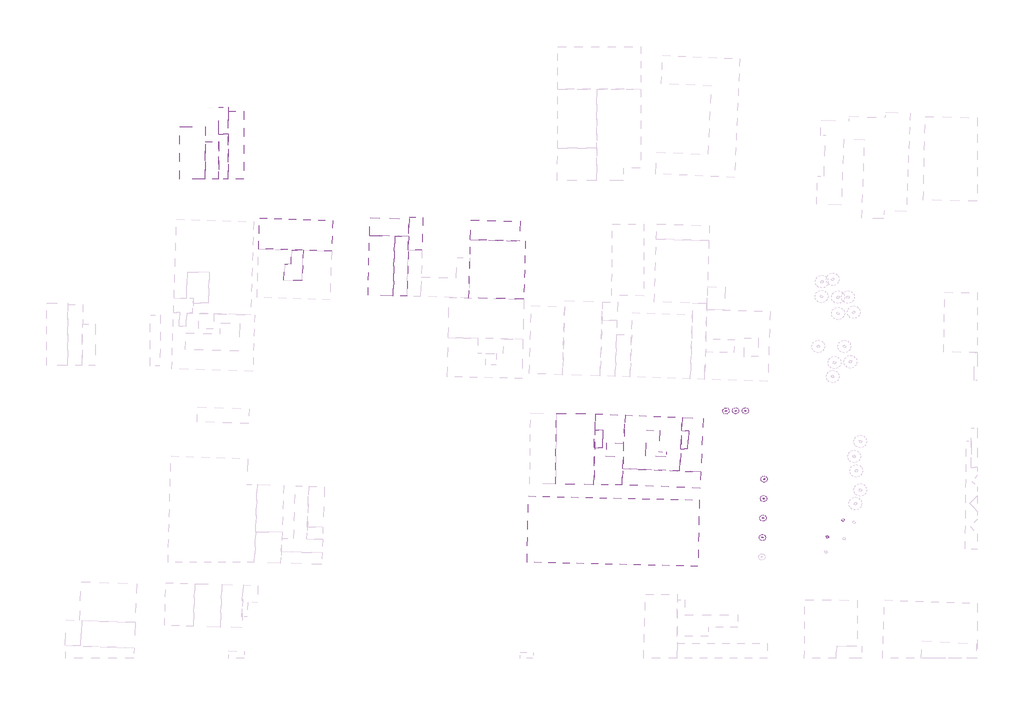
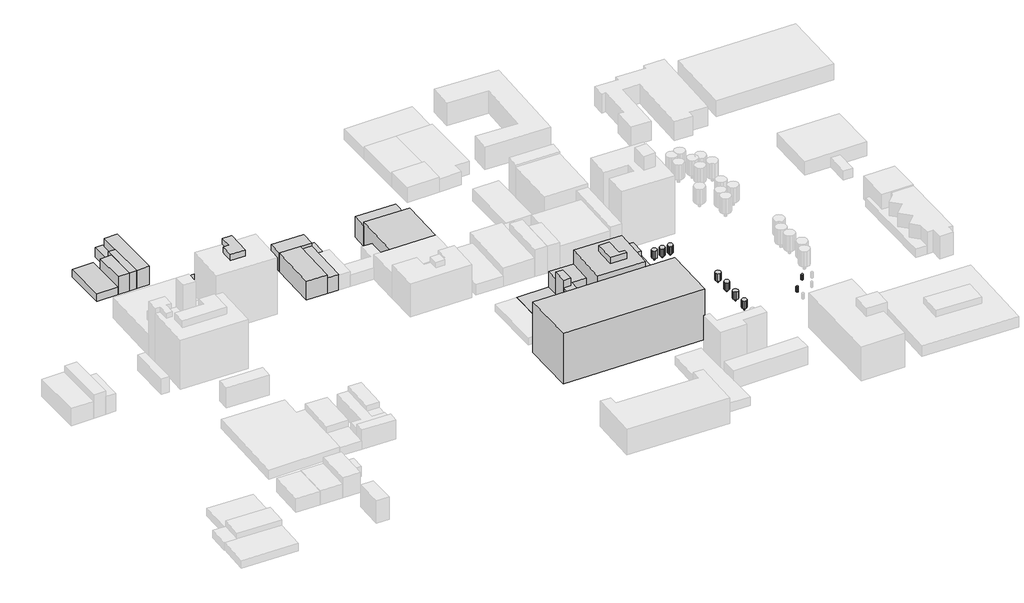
# One storey, part 2 of 4: 38 proxies.
"""IFC4 building model written with IfcOpenShell, lengths in millimetres."""

from ifc_helpers import new_model, si_unit, frame, origin, place, context, project, spatial, polyline, outline, extrude, triangles, element, save

model = new_model("IFC4")

# Units and contexts
model_context = context("Model", 3, world=origin())
ifc_project = project(units=[si_unit("LENGTHUNIT", "METRE", prefix="MILLI")], contexts=[model_context])

# Site, building, storey
site = spatial("IfcSite", under=ifc_project)
building = spatial("IfcBuilding", under=site)
storey = spatial("IfcBuildingStorey", under=building, Name="Terrain Minimum Level", Elevation=-10557.5420791)

# Proxies
placement = place(None, origin())
element("IfcBuildingElementProxy", 1, Name="Generic Models", at=placement, inside=storey, context=model_context, shape_type="SweptSolid", body=[
    extrude(outline(polyline([(-19836.2611246, 22221.5650994), (60413.6181407, 20376.529301), (59696.7581908, -10803.3125622), (-20553.1210745, -8958.2767638), (-19836.2611246, 22221.5650994)])), frame((0.0, 0.0, -2389.8631352), z_axis=(0.0, 0.0, 1.0), x_axis=(1.0, 0.0, 0.0)), (0.0, 0.0, 1.0), 30480.0),
])
element("IfcBuildingElementProxy", 2, Name="Generic Models", at=placement, inside=storey, context=model_context, shape_type="Tessellation", body=[
    triangles([(73163.8271851, 62067.0301025, -1461.6953728), (73163.8271851, 62371.8301025, -1461.6953728), (73052.2619019, 62483.3953857, -1461.6953728), (72899.8619019, 62524.2301025, -1461.6953728), (72747.4619019, 62483.3953857, -1461.6953728), (72747.4619019, 61955.4648193, -1461.6953728), (73052.2619019, 61955.4648193, -1461.6953728), (72899.8619019, 61914.6301025, -1461.6953728), (73052.2619019, 61955.4648193, -2985.6953728), (72899.8619019, 61914.6301025, -2985.6953728), (72635.8966187, 62067.0301025, -2985.6953728), (72899.8619019, 62524.2301025, -2985.6953728), (73052.2619019, 62483.3953857, -2985.6953728), (73163.8271851, 62371.8301025, -2985.6953728), (73204.6619019, 62219.4301025, -2985.6953728), (73163.8271851, 62067.0301025, -2985.6953728), (73204.6619019, 62219.4301025, -1461.6953728), (72747.4619019, 62483.3953857, -2985.6953728), (72635.8966187, 62371.8301025, -2985.6953728), (72635.8966187, 62371.8301025, -1461.6953728), (72595.0619019, 62219.4301025, -2985.6953728), (72635.8966187, 62067.0301025, -1461.6953728), (72595.0619019, 62219.4301025, -1461.6953728), (72747.4619019, 61955.4648193, -2985.6953728)], [[16, 17, 1], [16, 15, 17], [9, 1, 7], [9, 16, 1], [10, 7, 8], [10, 9, 7], [24, 8, 6], [24, 10, 8], [11, 6, 22], [11, 24, 6], [21, 22, 23], [21, 11, 22], [19, 23, 20], [19, 21, 23], [18, 20, 5], [18, 19, 20], [12, 5, 4], [12, 18, 5], [13, 4, 3], [13, 12, 4], [14, 3, 2], [14, 13, 3], [15, 2, 17], [15, 14, 2], [14, 15, 16], [12, 13, 14], [19, 18, 12], [11, 21, 19], [10, 24, 11], [16, 9, 10], [12, 14, 16], [11, 19, 12], [16, 10, 11], [11, 12, 16], [1, 4, 22], [22, 8, 1], [4, 20, 22], [1, 2, 4], [8, 7, 1], [22, 6, 8], [20, 23, 22], [4, 5, 20], [2, 3, 4], [1, 17, 2]]),
])
element("IfcBuildingElementProxy", 3, Name="Generic Models", at=placement, inside=storey, context=model_context, shape_type="Tessellation", body=[
    triangles([(74219.683667, 61457.4301025, 3110.3049179), (74219.683667, 62981.4301025, 3110.3049179), (73661.8619019, 63539.2518677, 3110.3049179), (72899.8619019, 63743.4301025, 3110.3049179), (72137.8619019, 63539.2518677, 3110.3049179), (72137.8619019, 60899.6083374, 3110.3049179), (73661.8619019, 60899.6083374, 3110.3049179), (72899.8619019, 60695.4301025, 3110.3049179), (73661.8619019, 60899.6083374, -1461.6953728), (72899.8619019, 60695.4301025, -1461.6953728), (71580.0401367, 61457.4301025, -1461.6953728), (72899.8619019, 63743.4301025, -1461.6953728), (73661.8619019, 63539.2518677, -1461.6953728), (74219.683667, 62981.4301025, -1461.6953728), (74423.8619019, 62219.4301025, -1461.6953728), (74219.683667, 61457.4301025, -1461.6953728), (74423.8619019, 62219.4301025, 3110.3049179), (72137.8619019, 63539.2518677, -1461.6953728), (71580.0401367, 62981.4301025, -1461.6953728), (71580.0401367, 62981.4301025, 3110.3049179), (71375.8619019, 62219.4301025, -1461.6953728), (71580.0401367, 61457.4301025, 3110.3049179), (71375.8619019, 62219.4301025, 3110.3049179), (72137.8619019, 60899.6083374, -1461.6953728)], [[16, 17, 1], [16, 15, 17], [9, 1, 7], [9, 16, 1], [10, 7, 8], [10, 9, 7], [24, 8, 6], [24, 10, 8], [11, 6, 22], [11, 24, 6], [21, 22, 23], [21, 11, 22], [19, 23, 20], [19, 21, 23], [18, 20, 5], [18, 19, 20], [12, 5, 4], [12, 18, 5], [13, 4, 3], [13, 12, 4], [14, 3, 2], [14, 13, 3], [15, 2, 17], [15, 14, 2], [14, 15, 16], [12, 13, 14], [19, 18, 12], [11, 21, 19], [10, 24, 11], [16, 9, 10], [12, 14, 16], [11, 19, 12], [16, 10, 11], [11, 12, 16], [1, 4, 22], [22, 8, 1], [4, 20, 22], [1, 2, 4], [8, 7, 1], [22, 6, 8], [20, 23, 22], [4, 5, 20], [2, 3, 4], [1, 17, 2]]),
])
element("IfcBuildingElementProxy", 4, Name="Generic Models", at=placement, inside=storey, context=model_context, shape_type="Tessellation", body=[
    triangles([(77735.7341675, 62095.7120728, -1616.7135269), (77735.7341675, 62400.5120728, -1616.7135269), (77624.1735352, 62512.077356, -1616.7135269), (77471.7735352, 62552.9120728, -1616.7135269), (77319.3735352, 62512.077356, -1616.7135269), (77319.3735352, 61984.1467896, -1616.7135269), (77624.1735352, 61984.1467896, -1616.7135269), (77471.7735352, 61943.3120728, -1616.7135269), (77624.1735352, 61984.1467896, -3140.7135269), (77471.7735352, 61943.3120728, -3140.7135269), (77207.808252, 62095.7120728, -3140.7135269), (77471.7735352, 62552.9120728, -3140.7135269), (77624.1735352, 62512.077356, -3140.7135269), (77735.7341675, 62400.5120728, -3140.7135269), (77776.5735352, 62248.1120728, -3140.7135269), (77735.7341675, 62095.7120728, -3140.7135269), (77776.5735352, 62248.1120728, -1616.7135269), (77319.3735352, 62512.077356, -3140.7135269), (77207.808252, 62400.5120728, -3140.7135269), (77207.808252, 62400.5120728, -1616.7135269), (77166.9735352, 62248.1120728, -3140.7135269), (77207.808252, 62095.7120728, -1616.7135269), (77166.9735352, 62248.1120728, -1616.7135269), (77319.3735352, 61984.1467896, -3140.7135269)], [[16, 17, 1], [16, 15, 17], [9, 1, 7], [9, 16, 1], [10, 7, 8], [10, 9, 7], [24, 8, 6], [24, 10, 8], [11, 6, 22], [11, 24, 6], [21, 22, 23], [21, 11, 22], [19, 23, 20], [19, 21, 23], [18, 20, 5], [18, 19, 20], [12, 5, 4], [12, 18, 5], [13, 4, 3], [13, 12, 4], [14, 3, 2], [14, 13, 3], [15, 2, 17], [15, 14, 2], [14, 15, 16], [12, 13, 14], [19, 18, 12], [11, 21, 19], [10, 24, 11], [16, 9, 10], [12, 14, 16], [11, 19, 12], [16, 10, 11], [11, 12, 16], [1, 4, 22], [22, 8, 1], [4, 20, 22], [1, 2, 4], [8, 7, 1], [22, 6, 8], [20, 23, 22], [4, 5, 20], [2, 3, 4], [1, 17, 2]]),
])
element("IfcBuildingElementProxy", 5, Name="Generic Models", at=placement, inside=storey, context=model_context, shape_type="Tessellation", body=[
    triangles([(78791.5906494, 61486.1120728, 2955.2867638), (78791.5906494, 63010.1120728, 2955.2867638), (78233.7735352, 63567.9338379, 2955.2867638), (77471.7735352, 63772.1120728, 2955.2867638), (76709.7735352, 63567.9338379, 2955.2867638), (76709.7735352, 60928.2903076, 2955.2867638), (78233.7735352, 60928.2903076, 2955.2867638), (77471.7735352, 60724.1120728, 2955.2867638), (78233.7735352, 60928.2903076, -1616.7135269), (77471.7735352, 60724.1120728, -1616.7135269), (76151.9471191, 61486.1120728, -1616.7135269), (77471.7735352, 63772.1120728, -1616.7135269), (78233.7735352, 63567.9338379, -1616.7135269), (78791.5906494, 63010.1120728, -1616.7135269), (78995.7735352, 62248.1120728, -1616.7135269), (78791.5906494, 61486.1120728, -1616.7135269), (78995.7735352, 62248.1120728, 2955.2867638), (76709.7735352, 63567.9338379, -1616.7135269), (76151.9471191, 63010.1120728, -1616.7135269), (76151.9471191, 63010.1120728, 2955.2867638), (75947.7735352, 62248.1120728, -1616.7135269), (76151.9471191, 61486.1120728, 2955.2867638), (75947.7735352, 62248.1120728, 2955.2867638), (76709.7735352, 60928.2903076, -1616.7135269)], [[16, 17, 1], [16, 15, 17], [9, 1, 7], [9, 16, 1], [10, 7, 8], [10, 9, 7], [24, 8, 6], [24, 10, 8], [11, 6, 22], [11, 24, 6], [21, 22, 23], [21, 11, 22], [19, 23, 20], [19, 21, 23], [18, 20, 5], [18, 19, 20], [12, 5, 4], [12, 18, 5], [13, 4, 3], [13, 12, 4], [14, 3, 2], [14, 13, 3], [15, 2, 17], [15, 14, 2], [14, 15, 16], [12, 13, 14], [19, 18, 12], [11, 21, 19], [10, 24, 11], [16, 9, 10], [12, 14, 16], [11, 19, 12], [16, 10, 11], [11, 12, 16], [1, 4, 22], [22, 8, 1], [4, 20, 22], [1, 2, 4], [8, 7, 1], [22, 6, 8], [20, 23, 22], [4, 5, 20], [2, 3, 4], [1, 17, 2]]),
])
element("IfcBuildingElementProxy", 6, Name="Generic Models", at=placement, inside=storey, context=model_context, shape_type="Tessellation", body=[
    triangles([(82307.6458008, 62124.394043, -1737.6804165), (82307.6458008, 62429.194043, -1737.6804165), (82196.0805176, 62540.7593262, -1737.6804165), (82043.6805176, 62581.594043, -1737.6804165), (81891.2805176, 62540.7593262, -1737.6804165), (81891.2805176, 62012.8287598, -1737.6804165), (82196.0805176, 62012.8287598, -1737.6804165), (82043.6805176, 61971.994043, -1737.6804165), (82196.0805176, 62012.8287598, -3261.6805618), (82043.6805176, 61971.994043, -3261.6805618), (81779.7152344, 62124.394043, -3261.6805618), (82043.6805176, 62581.594043, -3261.6805618), (82196.0805176, 62540.7593262, -3261.6805618), (82307.6458008, 62429.194043, -3261.6805618), (82348.4805176, 62276.794043, -3261.6805618), (82307.6458008, 62124.394043, -3261.6805618), (82348.4805176, 62276.794043, -1737.6804165), (81891.2805176, 62540.7593262, -3261.6805618), (81779.7152344, 62429.194043, -3261.6805618), (81779.7152344, 62429.194043, -1737.6804165), (81738.8805176, 62276.794043, -3261.6805618), (81779.7152344, 62124.394043, -1737.6804165), (81738.8805176, 62276.794043, -1737.6804165), (81891.2805176, 62012.8287598, -3261.6805618)], [[16, 17, 1], [16, 15, 17], [9, 1, 7], [9, 16, 1], [10, 7, 8], [10, 9, 7], [24, 8, 6], [24, 10, 8], [11, 6, 22], [11, 24, 6], [21, 22, 23], [21, 11, 22], [19, 23, 20], [19, 21, 23], [18, 20, 5], [18, 19, 20], [12, 5, 4], [12, 18, 5], [13, 4, 3], [13, 12, 4], [14, 3, 2], [14, 13, 3], [15, 2, 17], [15, 14, 2], [14, 15, 16], [12, 13, 14], [19, 18, 12], [11, 21, 19], [10, 24, 11], [16, 9, 10], [12, 14, 16], [11, 19, 12], [16, 10, 11], [11, 12, 16], [1, 4, 22], [22, 8, 1], [4, 20, 22], [1, 2, 4], [8, 7, 1], [22, 6, 8], [20, 23, 22], [4, 5, 20], [2, 3, 4], [1, 17, 2]]),
])
element("IfcBuildingElementProxy", 7, Name="Generic Models", at=placement, inside=storey, context=model_context, shape_type="Tessellation", body=[
    triangles([(83363.5069336, 61514.794043, 2834.3197289), (83363.5069336, 63038.794043, 2834.3197289), (82805.6805176, 63596.6158081, 2834.3197289), (82043.6805176, 63800.794043, 2834.3197289), (81281.6805176, 63596.6158081, 2834.3197289), (81281.6805176, 60956.9722778, 2834.3197289), (82805.6805176, 60956.9722778, 2834.3197289), (82043.6805176, 60752.794043, 2834.3197289), (82805.6805176, 60956.9722778, -1737.6804165), (82043.6805176, 60752.794043, -1737.6804165), (80723.8634033, 61514.794043, -1737.6804165), (82043.6805176, 63800.794043, -1737.6804165), (82805.6805176, 63596.6158081, -1737.6804165), (83363.5069336, 63038.794043, -1737.6804165), (83567.6805176, 62276.794043, -1737.6804165), (83363.5069336, 61514.794043, -1737.6804165), (83567.6805176, 62276.794043, 2834.3197289), (81281.6805176, 63596.6158081, -1737.6804165), (80723.8634033, 63038.794043, -1737.6804165), (80723.8634033, 63038.794043, 2834.3197289), (80519.6805176, 62276.794043, -1737.6804165), (80723.8634033, 61514.794043, 2834.3197289), (80519.6805176, 62276.794043, 2834.3197289), (81281.6805176, 60956.9722778, -1737.6804165)], [[16, 17, 1], [16, 15, 17], [9, 1, 7], [9, 16, 1], [10, 7, 8], [10, 9, 7], [24, 8, 6], [24, 10, 8], [11, 6, 22], [11, 24, 6], [21, 22, 23], [21, 11, 22], [19, 23, 20], [19, 21, 23], [18, 20, 5], [18, 19, 20], [12, 5, 4], [12, 18, 5], [13, 4, 3], [13, 12, 4], [14, 3, 2], [14, 13, 3], [15, 2, 17], [15, 14, 2], [14, 15, 16], [12, 13, 14], [19, 18, 12], [11, 21, 19], [10, 24, 11], [16, 9, 10], [12, 14, 16], [11, 19, 12], [16, 10, 11], [11, 12, 16], [1, 4, 22], [22, 8, 1], [4, 20, 22], [1, 2, 4], [8, 7, 1], [22, 6, 8], [20, 23, 22], [4, 5, 20], [2, 3, 4], [1, 17, 2]]),
])
element("IfcBuildingElementProxy", 8, Name="Generic Models", at=placement, inside=storey, context=model_context, shape_type="Tessellation", body=[
    triangles([(90299.8742432, 2590.8520317, -1696.3297428), (90299.8742432, 2895.6520317, -1696.3297428), (90188.30896, 3007.2164429, -1696.3297428), (90035.90896, 3048.0520317, -1696.3297428), (89883.50896, 3007.2164429, -1696.3297428), (89883.50896, 2479.2876205, -1696.3297428), (90188.30896, 2479.2876205, -1696.3297428), (90035.90896, 2438.4520317, -1696.3297428), (90188.30896, 2479.2876205, -3220.3298882), (90035.90896, 2438.4520317, -3220.3298882), (89771.9436768, 2590.8520317, -3220.3298882), (90035.90896, 3048.0520317, -3220.3298882), (90188.30896, 3007.2164429, -3220.3298882), (90299.8742432, 2895.6520317, -3220.3298882), (90340.70896, 2743.2520317, -3220.3298882), (90299.8742432, 2590.8520317, -3220.3298882), (90340.70896, 2743.2520317, -1696.3297428), (89883.50896, 3007.2164429, -3220.3298882), (89771.9436768, 2895.6520317, -3220.3298882), (89771.9436768, 2895.6520317, -1696.3297428), (89731.10896, 2743.2520317, -3220.3298882), (89771.9436768, 2590.8520317, -1696.3297428), (89731.10896, 2743.2520317, -1696.3297428), (89883.50896, 2479.2876205, -3220.3298882)], [[16, 17, 1], [16, 15, 17], [9, 1, 7], [9, 16, 1], [10, 7, 8], [10, 9, 7], [24, 8, 6], [24, 10, 8], [11, 6, 22], [11, 24, 6], [21, 22, 23], [21, 11, 22], [19, 23, 20], [19, 21, 23], [18, 20, 5], [18, 19, 20], [12, 5, 4], [12, 18, 5], [13, 4, 3], [13, 12, 4], [14, 3, 2], [14, 13, 3], [15, 2, 17], [15, 14, 2], [14, 15, 16], [12, 13, 14], [19, 18, 12], [11, 21, 19], [10, 24, 11], [16, 9, 10], [12, 14, 16], [11, 19, 12], [16, 10, 11], [11, 12, 16], [1, 4, 22], [22, 8, 1], [4, 20, 22], [1, 2, 4], [8, 7, 1], [22, 6, 8], [20, 23, 22], [4, 5, 20], [2, 3, 4], [1, 17, 2]]),
])
element("IfcBuildingElementProxy", 9, Name="Generic Models", at=placement, inside=storey, context=model_context, shape_type="Tessellation", body=[
    triangles([(91355.7260742, 1981.2520317, 2875.6704025), (91355.7260742, 3505.2520317, 2875.6704025), (90797.90896, 4063.0746689, 2875.6704025), (90035.90896, 4267.2520317, 2875.6704025), (89273.90896, 4063.0746689, 2875.6704025), (89273.90896, 1423.4293945, 2875.6704025), (90797.90896, 1423.4293945, 2875.6704025), (90035.90896, 1219.2520317, 2875.6704025), (90797.90896, 1423.4293945, -1696.3297428), (90035.90896, 1219.2520317, -1696.3297428), (88716.0825439, 1981.2520317, -1696.3297428), (90035.90896, 4267.2520317, -1696.3297428), (90797.90896, 4063.0746689, -1696.3297428), (91355.7260742, 3505.2520317, -1696.3297428), (91559.90896, 2743.2520317, -1696.3297428), (91355.7260742, 1981.2520317, -1696.3297428), (91559.90896, 2743.2520317, 2875.6704025), (89273.90896, 4063.0746689, -1696.3297428), (88716.0825439, 3505.2520317, -1696.3297428), (88716.0825439, 3505.2520317, 2875.6704025), (88511.90896, 2743.2520317, -1696.3297428), (88716.0825439, 1981.2520317, 2875.6704025), (88511.90896, 2743.2520317, 2875.6704025), (89273.90896, 1423.4293945, -1696.3297428)], [[16, 17, 1], [16, 15, 17], [9, 1, 7], [9, 16, 1], [10, 7, 8], [10, 9, 7], [24, 8, 6], [24, 10, 8], [11, 6, 22], [11, 24, 6], [21, 22, 23], [21, 11, 22], [19, 23, 20], [19, 21, 23], [18, 20, 5], [18, 19, 20], [12, 5, 4], [12, 18, 5], [13, 4, 3], [13, 12, 4], [14, 3, 2], [14, 13, 3], [15, 2, 17], [15, 14, 2], [14, 15, 16], [12, 13, 14], [19, 18, 12], [11, 21, 19], [10, 24, 11], [16, 9, 10], [12, 14, 16], [11, 19, 12], [16, 10, 11], [11, 12, 16], [1, 4, 22], [22, 8, 1], [4, 20, 22], [1, 2, 4], [8, 7, 1], [22, 6, 8], [20, 23, 22], [4, 5, 20], [2, 3, 4], [1, 17, 2]]),
])
element("IfcBuildingElementProxy", 10, Name="Generic Models", at=placement, inside=storey, context=model_context, shape_type="Tessellation", body=[
    triangles([(90573.7179932, 11730.7502472, -1765.7342274), (90573.7179932, 12035.5502472, -1765.7342274), (90462.15271, 12147.1155304, -1765.7342274), (90309.75271, 12187.9502472, -1765.7342274), (90157.35271, 12147.1155304, -1765.7342274), (90157.35271, 11619.1861267, -1765.7342274), (90462.15271, 11619.1861267, -1765.7342274), (90309.75271, 11578.3502472, -1765.7342274), (90462.15271, 11619.1861267, -3289.7343727), (90309.75271, 11578.3502472, -3289.7343727), (90045.7874268, 11730.7502472, -3289.7343727), (90309.75271, 12187.9502472, -3289.7343727), (90462.15271, 12147.1155304, -3289.7343727), (90573.7179932, 12035.5502472, -3289.7343727), (90614.55271, 11883.1502472, -3289.7343727), (90573.7179932, 11730.7502472, -3289.7343727), (90614.55271, 11883.1502472, -1765.7342274), (90157.35271, 12147.1155304, -3289.7343727), (90045.7874268, 12035.5502472, -3289.7343727), (90045.7874268, 12035.5502472, -1765.7342274), (90004.95271, 11883.1502472, -3289.7343727), (90045.7874268, 11730.7502472, -1765.7342274), (90004.95271, 11883.1502472, -1765.7342274), (90157.35271, 11619.1861267, -3289.7343727)], [[16, 17, 1], [16, 15, 17], [9, 1, 7], [9, 16, 1], [10, 7, 8], [10, 9, 7], [24, 8, 6], [24, 10, 8], [11, 6, 22], [11, 24, 6], [21, 22, 23], [21, 11, 22], [19, 23, 20], [19, 21, 23], [18, 20, 5], [18, 19, 20], [12, 5, 4], [12, 18, 5], [13, 4, 3], [13, 12, 4], [14, 3, 2], [14, 13, 3], [15, 2, 17], [15, 14, 2], [14, 15, 16], [12, 13, 14], [19, 18, 12], [11, 21, 19], [10, 24, 11], [16, 9, 10], [12, 14, 16], [11, 19, 12], [16, 10, 11], [11, 12, 16], [1, 4, 22], [22, 8, 1], [4, 20, 22], [1, 2, 4], [8, 7, 1], [22, 6, 8], [20, 23, 22], [4, 5, 20], [2, 3, 4], [1, 17, 2]]),
])
element("IfcBuildingElementProxy", 11, Name="Generic Models", at=placement, inside=storey, context=model_context, shape_type="Tessellation", body=[
    triangles([(91629.5698242, 11121.1502472, 2806.265918), (91629.5698242, 12645.1502472, 2806.265918), (91071.75271, 13202.973175, 2806.265918), (90309.75271, 13407.1502472, 2806.265918), (89547.75271, 13202.973175, 2806.265918), (89547.75271, 10563.3273193, 2806.265918), (91071.75271, 10563.3273193, 2806.265918), (90309.75271, 10359.1502472, 2806.265918), (91071.75271, 10563.3273193, -1765.7342274), (90309.75271, 10359.1502472, -1765.7342274), (88989.9262939, 11121.1502472, -1765.7342274), (90309.75271, 13407.1502472, -1765.7342274), (91071.75271, 13202.973175, -1765.7342274), (91629.5698242, 12645.1502472, -1765.7342274), (91833.75271, 11883.1502472, -1765.7342274), (91629.5698242, 11121.1502472, -1765.7342274), (91833.75271, 11883.1502472, 2806.265918), (89547.75271, 13202.973175, -1765.7342274), (88989.9262939, 12645.1502472, -1765.7342274), (88989.9262939, 12645.1502472, 2806.265918), (88785.75271, 11883.1502472, -1765.7342274), (88989.9262939, 11121.1502472, 2806.265918), (88785.75271, 11883.1502472, 2806.265918), (89547.75271, 10563.3273193, -1765.7342274)], [[16, 17, 1], [16, 15, 17], [9, 1, 7], [9, 16, 1], [10, 7, 8], [10, 9, 7], [24, 8, 6], [24, 10, 8], [11, 6, 22], [11, 24, 6], [21, 22, 23], [21, 11, 22], [19, 23, 20], [19, 21, 23], [18, 20, 5], [18, 19, 20], [12, 5, 4], [12, 18, 5], [13, 4, 3], [13, 12, 4], [14, 3, 2], [14, 13, 3], [15, 2, 17], [15, 14, 2], [14, 15, 16], [12, 13, 14], [19, 18, 12], [11, 21, 19], [10, 24, 11], [16, 9, 10], [12, 14, 16], [11, 19, 12], [16, 10, 11], [11, 12, 16], [1, 4, 22], [22, 8, 1], [4, 20, 22], [1, 2, 4], [8, 7, 1], [22, 6, 8], [20, 23, 22], [4, 5, 20], [2, 3, 4], [1, 17, 2]]),
])
element("IfcBuildingElementProxy", 12, Name="Generic Models", at=placement, inside=storey, context=model_context, shape_type="Tessellation", body=[
    triangles([(90847.5617432, 20870.6493347, -1838.7908146), (90847.5617432, 21175.4493347, -1838.7908146), (90735.99646, 21287.0146179, -1838.7908146), (90583.59646, 21327.8493347, -1838.7908146), (90431.19646, 21287.0146179, -1838.7908146), (90431.19646, 20759.0840515, -1838.7908146), (90735.99646, 20759.0840515, -1838.7908146), (90583.59646, 20718.2493347, -1838.7908146), (90735.99646, 20759.0840515, -3362.7906693), (90583.59646, 20718.2493347, -3362.7906693), (90319.6311768, 20870.6493347, -3362.7906693), (90583.59646, 21327.8493347, -3362.7906693), (90735.99646, 21287.0146179, -3362.7906693), (90847.5617432, 21175.4493347, -3362.7906693), (90888.39646, 21023.0493347, -3362.7906693), (90847.5617432, 20870.6493347, -3362.7906693), (90888.39646, 21023.0493347, -1838.7908146), (90431.19646, 21287.0146179, -3362.7906693), (90319.6311768, 21175.4493347, -3362.7906693), (90319.6311768, 21175.4493347, -1838.7908146), (90278.79646, 21023.0493347, -3362.7906693), (90319.6311768, 20870.6493347, -1838.7908146), (90278.79646, 21023.0493347, -1838.7908146), (90431.19646, 20759.0840515, -3362.7906693)], [[16, 17, 1], [16, 15, 17], [9, 1, 7], [9, 16, 1], [10, 7, 8], [10, 9, 7], [24, 8, 6], [24, 10, 8], [11, 6, 22], [11, 24, 6], [21, 22, 23], [21, 11, 22], [19, 23, 20], [19, 21, 23], [18, 20, 5], [18, 19, 20], [12, 5, 4], [12, 18, 5], [13, 4, 3], [13, 12, 4], [14, 3, 2], [14, 13, 3], [15, 2, 17], [15, 14, 2], [14, 15, 16], [12, 13, 14], [19, 18, 12], [11, 21, 19], [10, 24, 11], [16, 9, 10], [12, 14, 16], [11, 19, 12], [16, 10, 11], [11, 12, 16], [1, 4, 22], [22, 8, 1], [4, 20, 22], [1, 2, 4], [8, 7, 1], [22, 6, 8], [20, 23, 22], [4, 5, 20], [2, 3, 4], [1, 17, 2]]),
])
element("IfcBuildingElementProxy", 13, Name="Generic Models", at=placement, inside=storey, context=model_context, shape_type="Tessellation", body=[
    triangles([(91903.422876, 20261.0493347, 2733.2093307), (91903.422876, 21785.0493347, 2733.2093307), (91345.59646, 22342.8710999, 2733.2093307), (90583.59646, 22547.0493347, 2733.2093307), (89821.59646, 22342.8710999, 2733.2093307), (89821.59646, 19703.2252441, 2733.2093307), (91345.59646, 19703.2252441, 2733.2093307), (90583.59646, 19499.0493347, 2733.2093307), (91345.59646, 19703.2252441, -1838.7908146), (90583.59646, 19499.0493347, -1838.7908146), (89263.7700439, 20261.0493347, -1838.7908146), (90583.59646, 22547.0493347, -1838.7908146), (91345.59646, 22342.8710999, -1838.7908146), (91903.422876, 21785.0493347, -1838.7908146), (92107.59646, 21023.0493347, -1838.7908146), (91903.422876, 20261.0493347, -1838.7908146), (92107.59646, 21023.0493347, 2733.2093307), (89821.59646, 22342.8710999, -1838.7908146), (89263.7700439, 21785.0493347, -1838.7908146), (89263.7700439, 21785.0493347, 2733.2093307), (89059.59646, 21023.0493347, -1838.7908146), (89263.7700439, 20261.0493347, 2733.2093307), (89059.59646, 21023.0493347, 2733.2093307), (89821.59646, 19703.2252441, -1838.7908146)], [[16, 17, 1], [16, 15, 17], [9, 1, 7], [9, 16, 1], [10, 7, 8], [10, 9, 7], [24, 8, 6], [24, 10, 8], [11, 6, 22], [11, 24, 6], [21, 22, 23], [21, 11, 22], [19, 23, 20], [19, 21, 23], [18, 20, 5], [18, 19, 20], [12, 5, 4], [12, 18, 5], [13, 4, 3], [13, 12, 4], [14, 3, 2], [14, 13, 3], [15, 2, 17], [15, 14, 2], [14, 15, 16], [12, 13, 14], [19, 18, 12], [11, 21, 19], [10, 24, 11], [16, 9, 10], [12, 14, 16], [11, 19, 12], [16, 10, 11], [11, 12, 16], [1, 4, 22], [22, 8, 1], [4, 20, 22], [1, 2, 4], [8, 7, 1], [22, 6, 8], [20, 23, 22], [4, 5, 20], [2, 3, 4], [1, 17, 2]]),
])
element("IfcBuildingElementProxy", 14, Name="Generic Models", at=placement, inside=storey, context=model_context, shape_type="Tessellation", body=[
    triangles([(91121.4054932, 30010.5472595, -1866.7654152), (91121.4054932, 30315.3472595, -1866.7654152), (91009.84021, 30426.9125427, -1866.7654152), (90857.44021, 30467.7472595, -1866.7654152), (90705.04021, 30426.9125427, -1866.7654152), (90705.04021, 29898.9819763, -1866.7654152), (91009.84021, 29898.9819763, -1866.7654152), (90857.44021, 29858.1472595, -1866.7654152), (91009.84021, 29898.9819763, -3390.7654152), (90857.44021, 29858.1472595, -3390.7654152), (90593.4749268, 30010.5472595, -3390.7654152), (90857.44021, 30467.7472595, -3390.7654152), (91009.84021, 30426.9125427, -3390.7654152), (91121.4054932, 30315.3472595, -3390.7654152), (91162.24021, 30162.9472595, -3390.7654152), (91121.4054932, 30010.5472595, -3390.7654152), (91162.24021, 30162.9472595, -1866.7654152), (90705.04021, 30426.9125427, -3390.7654152), (90593.4749268, 30315.3472595, -3390.7654152), (90593.4749268, 30315.3472595, -1866.7654152), (90552.64021, 30162.9472595, -3390.7654152), (90593.4749268, 30010.5472595, -1866.7654152), (90552.64021, 30162.9472595, -1866.7654152), (90705.04021, 29898.9819763, -3390.7654152)], [[16, 17, 1], [16, 15, 17], [9, 1, 7], [9, 16, 1], [10, 7, 8], [10, 9, 7], [24, 8, 6], [24, 10, 8], [11, 6, 22], [11, 24, 6], [21, 22, 23], [21, 11, 22], [19, 23, 20], [19, 21, 23], [18, 20, 5], [18, 19, 20], [12, 5, 4], [12, 18, 5], [13, 4, 3], [13, 12, 4], [14, 3, 2], [14, 13, 3], [15, 2, 17], [15, 14, 2], [14, 15, 16], [12, 13, 14], [19, 18, 12], [11, 21, 19], [10, 24, 11], [16, 9, 10], [12, 14, 16], [11, 19, 12], [16, 10, 11], [11, 12, 16], [1, 4, 22], [22, 8, 1], [4, 20, 22], [1, 2, 4], [8, 7, 1], [22, 6, 8], [20, 23, 22], [4, 5, 20], [2, 3, 4], [1, 17, 2]]),
])
element("IfcBuildingElementProxy", 15, Name="Generic Models", at=placement, inside=storey, context=model_context, shape_type="Tessellation", body=[
    triangles([(92177.266626, 29400.9472595, 2705.2345848), (92177.266626, 30924.9472595, 2705.2345848), (91619.44021, 31482.7713501, 2705.2345848), (90857.44021, 31686.9472595, 2705.2345848), (90095.44021, 31482.7713501, 2705.2345848), (90095.44021, 28843.1254944, 2705.2345848), (91619.44021, 28843.1254944, 2705.2345848), (90857.44021, 28638.9472595, 2705.2345848), (91619.44021, 28843.1254944, -1866.7654152), (90857.44021, 28638.9472595, -1866.7654152), (89537.6230957, 29400.9472595, -1866.7654152), (90857.44021, 31686.9472595, -1866.7654152), (91619.44021, 31482.7713501, -1866.7654152), (92177.266626, 30924.9472595, -1866.7654152), (92381.44021, 30162.9472595, -1866.7654152), (92177.266626, 29400.9472595, -1866.7654152), (92381.44021, 30162.9472595, 2705.2345848), (90095.44021, 31482.7713501, -1866.7654152), (89537.6230957, 30924.9472595, -1866.7654152), (89537.6230957, 30924.9472595, 2705.2345848), (89333.44021, 30162.9472595, -1866.7654152), (89537.6230957, 29400.9472595, 2705.2345848), (89333.44021, 30162.9472595, 2705.2345848), (90095.44021, 28843.1254944, -1866.7654152)], [[16, 17, 1], [16, 15, 17], [9, 1, 7], [9, 16, 1], [10, 7, 8], [10, 9, 7], [24, 8, 6], [24, 10, 8], [11, 6, 22], [11, 24, 6], [21, 22, 23], [21, 11, 22], [19, 23, 20], [19, 21, 23], [18, 20, 5], [18, 19, 20], [12, 5, 4], [12, 18, 5], [13, 4, 3], [13, 12, 4], [14, 3, 2], [14, 13, 3], [15, 2, 17], [15, 14, 2], [14, 15, 16], [12, 13, 14], [19, 18, 12], [11, 21, 19], [10, 24, 11], [16, 9, 10], [12, 14, 16], [11, 19, 12], [16, 10, 11], [11, 12, 16], [1, 4, 22], [22, 8, 1], [4, 20, 22], [1, 2, 4], [8, 7, 1], [22, 6, 8], [20, 23, 22], [4, 5, 20], [2, 3, 4], [1, 17, 2]]),
])
element("IfcBuildingElementProxy", 16, Name="Generic Models", at=placement, inside=storey, context=model_context, shape_type="Tessellation", body=[
    triangles([(121067.2985596, 2701.6019577, 38.5056075), (121067.2985596, 3311.2019577, 38.5056075), (120844.1679932, 3534.3310707, 38.5056075), (120539.3679932, 3616.0019577, 38.5056075), (120234.5679932, 3534.3310707, 38.5056075), (120234.5679932, 2478.4731354, 38.5056075), (120844.1679932, 2478.4731354, 38.5056075), (120539.3679932, 2396.802103, 38.5056075), (120844.1679932, 2478.4731354, -3009.4945015), (120539.3679932, 2396.802103, -3009.4945015), (120011.4374268, 2701.6019577, -3009.4945015), (120539.3679932, 3616.0019577, -3009.4945015), (120844.1679932, 3534.3310707, -3009.4945015), (121067.2985596, 3311.2019577, -3009.4945015), (121148.9679932, 3006.4019577, -3009.4945015), (121067.2985596, 2701.6019577, -3009.4945015), (121148.9679932, 3006.4019577, 38.5056075), (120234.5679932, 3534.3310707, -3009.4945015), (120011.4374268, 3311.2019577, -3009.4945015), (120011.4374268, 3311.2019577, 38.5056075), (119929.7679932, 3006.4019577, -3009.4945015), (120011.4374268, 2701.6019577, 38.5056075), (119929.7679932, 3006.4019577, 38.5056075), (120234.5679932, 2478.4731354, -3009.4945015)], [[16, 17, 1], [16, 15, 17], [9, 1, 7], [9, 16, 1], [10, 7, 8], [10, 9, 7], [24, 8, 6], [24, 10, 8], [11, 6, 22], [11, 24, 6], [21, 22, 23], [21, 11, 22], [19, 23, 20], [19, 21, 23], [18, 20, 5], [18, 19, 20], [12, 5, 4], [12, 18, 5], [13, 4, 3], [13, 12, 4], [14, 3, 2], [14, 13, 3], [15, 2, 17], [15, 14, 2], [14, 15, 16], [12, 13, 14], [19, 18, 12], [11, 21, 19], [10, 24, 11], [16, 9, 10], [12, 14, 16], [11, 19, 12], [16, 10, 11], [11, 12, 16], [1, 4, 22], [22, 8, 1], [4, 20, 22], [1, 2, 4], [8, 7, 1], [22, 6, 8], [20, 23, 22], [4, 5, 20], [2, 3, 4], [1, 17, 2]]),
])
element("IfcBuildingElementProxy", 17, Name="Generic Models", at=placement, inside=storey, context=model_context, shape_type="Tessellation", body=[
    triangles([(128496.6218262, 10544.826123, 36.0780281), (128496.6218262, 11154.426123, 36.0780281), (128273.4912598, 11377.5555267, 36.0780281), (127968.6912598, 11459.226123, 36.0780281), (127663.8912598, 11377.5555267, 36.0780281), (127663.8912598, 10321.6967194, 36.0780281), (128273.4912598, 10321.6967194, 36.0780281), (127968.6912598, 10240.026123, 36.0780281), (128273.4912598, 10321.6967194, -3011.9219696), (127968.6912598, 10240.026123, -3011.9219696), (127440.7606934, 10544.826123, -3011.9219696), (127968.6912598, 11459.226123, -3011.9219696), (128273.4912598, 11377.5555267, -3011.9219696), (128496.6218262, 11154.426123, -3011.9219696), (128578.2912598, 10849.626123, -3011.9219696), (128496.6218262, 10544.826123, -3011.9219696), (128578.2912598, 10849.626123, 36.0780281), (127663.8912598, 11377.5555267, -3011.9219696), (127440.7606934, 11154.426123, -3011.9219696), (127440.7606934, 11154.426123, 36.0780281), (127359.0912598, 10849.626123, -3011.9219696), (127440.7606934, 10544.826123, 36.0780281), (127359.0912598, 10849.626123, 36.0780281), (127663.8912598, 10321.6967194, -3011.9219696)], [[16, 17, 1], [16, 15, 17], [9, 1, 7], [9, 16, 1], [10, 7, 8], [10, 9, 7], [24, 8, 6], [24, 10, 8], [11, 6, 22], [11, 24, 6], [21, 22, 23], [21, 11, 22], [19, 23, 20], [19, 21, 23], [18, 20, 5], [18, 19, 20], [12, 5, 4], [12, 18, 5], [13, 4, 3], [13, 12, 4], [14, 3, 2], [14, 13, 3], [15, 2, 17], [15, 14, 2], [14, 15, 16], [12, 13, 14], [19, 18, 12], [11, 21, 19], [10, 24, 11], [16, 9, 10], [12, 14, 16], [11, 19, 12], [16, 10, 11], [11, 12, 16], [1, 4, 22], [22, 8, 1], [4, 20, 22], [1, 2, 4], [8, 7, 1], [22, 6, 8], [20, 23, 22], [4, 5, 20], [2, 3, 4], [1, 17, 2]]),
])
element("IfcBuildingElementProxy", 18, Name="Generic Models", at=placement, inside=storey, context=model_context, shape_type="SweptSolid", body=[
    extrude(outline(polyline([(-153729.9692658, 171187.7065231), (-161028.7380551, 171185.5646906), (-161038.1234085, 203168.2359507), (-153739.3546192, 203170.3777832), (-153729.9692658, 171187.7065231)])), frame((0.0, 0.0, -4627.8970171), z_axis=(0.0, 0.0, 1.0), x_axis=(1.0, 0.0, 0.0)), (0.0, 0.0, 1.0), 11024.6763229),
])
element("IfcBuildingElementProxy", 19, Name="Generic Models", at=placement, inside=storey, context=model_context, shape_type="SweptSolid", body=[
    extrude(outline(polyline([(-161028.7380428, 171185.5643918), (-165288.7043537, 171184.3142295), (-165294.8839414, 192241.4483958), (-161034.9176305, 192242.6985581), (-161028.7380428, 171185.5643918)])), frame((0.0, 0.0, -4627.8970171), z_axis=(0.0, 0.0, 1.0), x_axis=(1.0, 0.0, 0.0)), (0.0, 0.0, 1.0), 11024.6763229),
])
element("IfcBuildingElementProxy", 20, Name="Generic Models", at=placement, inside=storey, context=model_context, shape_type="SweptSolid", body=[
    extrude(outline(polyline([(-161034.9177102, 192242.6983646), (-165294.8838452, 192241.4480976), (-165298.6350134, 205022.5971642), (-161038.6688783, 205023.8474312), (-161034.9177102, 192242.6983646)])), frame((0.0, 0.0, -4627.8970171), z_axis=(0.0, 0.0, 1.0), x_axis=(1.0, 0.0, 0.0)), (0.0, 0.0, 1.0), 5791.2),
])
element("IfcBuildingElementProxy", 21, Name="Generic Models", at=placement, inside=storey, context=model_context, shape_type="SweptSolid", body=[
    extrude(outline(polyline([(-165288.7042741, 171184.314423), (-171702.8361102, 171182.431925), (-171708.0205659, 188847.1429591), (-165293.8887298, 188849.0254571), (-165288.7042741, 171184.314423)])), frame((0.0, 0.0, -4627.8970171), z_axis=(0.0, 0.0, 1.0), x_axis=(1.0, 0.0, 0.0)), (0.0, 0.0, 1.0), 11024.6763229),
])
element("IfcBuildingElementProxy", 22, Name="Generic Models", at=placement, inside=storey, context=model_context, shape_type="SweptSolid", body=[
    extrude(outline(polyline([(-171702.8361539, 171182.4319152), (-183807.1481968, 171178.8794235), (-183814.3888435, 195849.745001), (-171710.0768006, 195853.2974928), (-171702.8361539, 171182.4319152)])), frame((0.0, 0.0, -4627.8970171), z_axis=(0.0, 0.0, 1.0), x_axis=(1.0, 0.0, 0.0)), (0.0, 0.0, 1.0), 4572.0),
])
element("IfcBuildingElementProxy", 23, Name="Generic Models", at=placement, inside=storey, context=model_context, shape_type="SweptSolid", body=[
    extrude(outline(polyline([(35743.0424411, 53187.6209856), (41688.9290204, 52962.0377989), (41314.541204, 43093.9819156), (44786.9199153, 42962.2420573), (44700.7352073, 40690.5989171), (35282.4699167, 41047.9219621), (35743.0424411, 53187.6209856)])), frame((0.0, 0.0, -1955.6020752), z_axis=(0.0, 0.0, 1.0), x_axis=(1.0, 0.0, 0.0)), (0.0, 0.0, 1.0), 26212.8),
])
element("IfcBuildingElementProxy", 24, Name="Generic Models", at=placement, inside=storey, context=model_context, shape_type="SweptSolid", body=[
    extrude(outline(polyline([(25502.3701626, 60301.4250017), (52346.9561482, 59171.539734), (51285.817109, 33960.2736037), (24441.2311235, 35090.1588714), (25502.3701626, 60301.4250017)])), frame((0.0, 0.0, -1638.6936423), z_axis=(0.0, 0.0, 1.0), x_axis=(1.0, 0.0, 0.0)), (0.0, 0.0, 1.0), 22250.4),
])
element("IfcBuildingElementProxy", 25, Name="Generic Models", at=placement, inside=storey, context=model_context, shape_type="SweptSolid", body=[
    extrude(outline(polyline([(51727.3621094, 44450.7966353), (52086.6003396, 52985.8234827), (55381.7731627, 52847.1300639), (55022.5349325, 44312.1032165), (51727.3621094, 44450.7966353)])), frame((0.0, 0.0, -1638.6935267), z_axis=(0.0, 0.0, 1.0), x_axis=(1.0, 0.0, 0.0)), (0.0, 0.0, 1.0), 20952.559581),
])
element("IfcBuildingElementProxy", 26, Name="Generic Models", at=placement, inside=storey, context=model_context, shape_type="SweptSolid", body=[
    extrude(outline(polyline([(51285.8172687, 33960.2732071), (51727.3622345, 44450.7964966), (55022.5349079, 44312.1031697), (55381.7731748, 52847.1301969), (52086.6003643, 52985.8235295), (52346.9566895, 59171.5397115), (62139.8912838, 58759.3561768), (61078.751863, 33548.0896724), (51285.8172687, 33960.2732071)])), frame((0.0, 0.0, -1638.6935267), z_axis=(0.0, 0.0, 1.0), x_axis=(1.0, 0.0, 0.0)), (0.0, 0.0, 1.0), 8534.4),
])
element("IfcBuildingElementProxy", 27, Name="Generic Models", at=placement, inside=storey, context=model_context, shape_type="SweptSolid", body=[
    extrude(outline(polyline([(24441.2308963, 35090.1588806), (61078.7519317, 33548.0900292), (60755.6051335, 25870.5480334), (24118.0840939, 27412.6167875), (24441.2308963, 35090.1588806)])), frame((0.0, 0.0, -1638.6935267), z_axis=(0.0, 0.0, 1.0), x_axis=(1.0, 0.0, 0.0)), (0.0, 0.0, 1.0), 4876.8),
])
element("IfcBuildingElementProxy", 28, Name="Generic Models", at=placement, inside=storey, context=model_context, shape_type="SweptSolid", body=[
    extrude(outline(polyline([(11167.87883, 53274.941781), (15033.0792946, 53234.0531533), (14945.2537391, 44931.9066301), (11080.0532745, 44972.7952578), (11167.87883, 53274.941781)])), frame((0.0, 0.0, -1123.7567372), z_axis=(0.0, 0.0, 1.0), x_axis=(1.0, 0.0, 0.0)), (0.0, 0.0, 1.0), 17678.4),
])
element("IfcBuildingElementProxy", 29, Name="Generic Models", at=placement, inside=storey, context=model_context, shape_type="SweptSolid", body=[
    extrude(outline(polyline([(25502.370003, 60301.4253983), (24931.8529554, 46746.6923292), (16704.4263251, 47092.9837041), (16447.4881584, 40988.4715265), (24674.9147887, 40642.1801516), (24118.084096, 27412.6168376), (10895.7698832, 27552.4911281), (11080.0532564, 44972.7951429), (14945.253776, 44931.9068334), (15031.8713913, 53119.8684843), (11407.8523593, 53272.4029996), (11488.449103, 60891.2696053), (25502.370003, 60301.4253983)])), frame((0.0, 0.0, -1638.6935267), z_axis=(0.0, 0.0, 1.0), x_axis=(1.0, 0.0, 0.0)), (0.0, 0.0, 1.0), 13716.0),
])
element("IfcBuildingElementProxy", 30, Name="Generic Models", at=placement, inside=storey, context=model_context, shape_type="SweptSolid", body=[
    extrude(outline(polyline([(10895.7700392, 27552.490249), (-7133.7249561, 27873.0089863), (-6782.3935163, 61084.549544), (11488.449063, 60891.2696985), (10895.7700392, 27552.490249)])), frame((0.0, 0.0, -1638.6933283), z_axis=(0.0, 0.0, 1.0), x_axis=(1.0, 0.0, 0.0)), (0.0, 0.0, 1.0), 4267.2),
])
element("IfcBuildingElementProxy", 31, Name="Generic Models", at=placement, inside=storey, context=model_context, shape_type="SweptSolid", body=[
    extrude(outline(polyline([(-22078.976292, 114745.3272348), (-47858.656299, 115409.8710962), (-47155.0254195, 142705.8555607), (-21375.3454126, 142041.3116994), (-22078.976292, 114745.3272348)])), frame((0.0, 0.0, -1621.7922699), z_axis=(0.0, 0.0, 1.0), x_axis=(1.0, 0.0, 0.0)), (0.0, 0.0, 1.0), 14630.4),
])
element("IfcBuildingElementProxy", 32, Name="Generic Models", at=placement, inside=storey, context=model_context, shape_type="SweptSolid", body=[
    extrude(outline(polyline([(-24028.4837001, 142109.7039919), (-47155.0257581, 142705.8551078), (-46916.011513, 151977.955493), (-23789.469455, 151381.804377), (-24028.4837001, 142109.7039919)])), frame((0.0, 0.0, -1621.7921219), z_axis=(0.0, 0.0, 1.0), x_axis=(1.0, 0.0, 0.0)), (0.0, 0.0, 1.0), 12192.0),
])
element("IfcBuildingElementProxy", 33, Name="Generic Models", at=placement, inside=storey, context=model_context, shape_type="SweptSolid", body=[
    extrude(outline(polyline([(-69923.8144098, 137773.3809276), (-76364.9629293, 137939.4203944), (-75967.9220802, 153341.825345), (-69526.7735472, 153175.7863991), (-69923.8144098, 137773.3809276)])), frame((0.0, 0.0, -1621.7920578), z_axis=(0.0, 0.0, 1.0), x_axis=(1.0, 0.0, 0.0)), (0.0, 0.0, 1.0), 3657.6),
])
element("IfcBuildingElementProxy", 34, Name="Generic Models", at=placement, inside=storey, context=model_context, shape_type="SweptSolid", body=[
    extrude(outline(polyline([(-76201.2445447, 144290.5517574), (-76926.4107882, 116159.1746135), (-83435.372225, 116326.9616041), (-82710.2059815, 144458.3387481), (-76201.2445447, 144290.5517574)])), frame((0.0, 0.0, -1621.7920208), z_axis=(0.0, 0.0, 1.0), x_axis=(1.0, 0.0, 0.0)), (0.0, 0.0, 1.0), 9448.8),
])
element("IfcBuildingElementProxy", 35, Name="Generic Models", at=placement, inside=storey, context=model_context, shape_type="SweptSolid", body=[
    extrude(outline(polyline([(-82710.2060632, 144458.33859), (-83435.3721456, 116326.9613698), (-95254.9760216, 116631.6452028), (-94529.8099392, 144763.0224229), (-82710.2060632, 144458.33859)])), frame((0.0, 0.0, -1621.7920643), z_axis=(0.0, 0.0, 1.0), x_axis=(1.0, 0.0, 0.0)), (0.0, 0.0, 1.0), 11277.6),
])
element("IfcBuildingElementProxy", 36, Name="Generic Models", at=placement, inside=storey, context=model_context, shape_type="SweptSolid", body=[
    extrude(outline(polyline([(-76201.2446241, 144290.5519917), (-94529.809842, 144763.0228259), (-94314.3967815, 153119.5621385), (-75985.8310853, 152647.091292), (-76201.2446241, 144290.5519917)])), frame((0.0, 0.0, -1621.7920643), z_axis=(0.0, 0.0, 1.0), x_axis=(1.0, 0.0, 0.0)), (0.0, 0.0, 1.0), 11277.6001442),
])
element("IfcBuildingElementProxy", 37, Name="Generic Models", at=placement, inside=storey, context=model_context, shape_type="SweptSolid", body=[
    extrude(outline(polyline([(-131146.9717133, 137924.9815422), (-125786.8236562, 137745.8005736), (-126265.0943607, 123438.4675602), (-134738.212021, 123721.710003), (-134485.5068128, 131281.3149167), (-131372.5372096, 131177.2534425), (-131146.9717133, 137924.9815422)])), frame((0.0, 0.0, -2554.4198002), z_axis=(0.0, 0.0, 1.0), x_axis=(1.0, 0.0, 0.0)), (0.0, 0.0, 1.0), 38100.0),
])
element("IfcBuildingElementProxy", 38, Name="Generic Models", at=placement, inside=storey, context=model_context, shape_type="SweptSolid", body=[
    extrude(outline(polyline([(-112398.9413576, 137298.2650146), (-146615.6619057, 138442.0753186), (-146132.3142272, 152901.2670091), (-111915.593679, 151757.4567052), (-112398.9413576, 137298.2650146)])), frame((0.0, 0.0, -2554.4199803), z_axis=(0.0, 0.0, 1.0), x_axis=(1.0, 0.0, 0.0)), (0.0, 0.0, 1.0), 10058.4),
])

save(model, "model.ifc")
